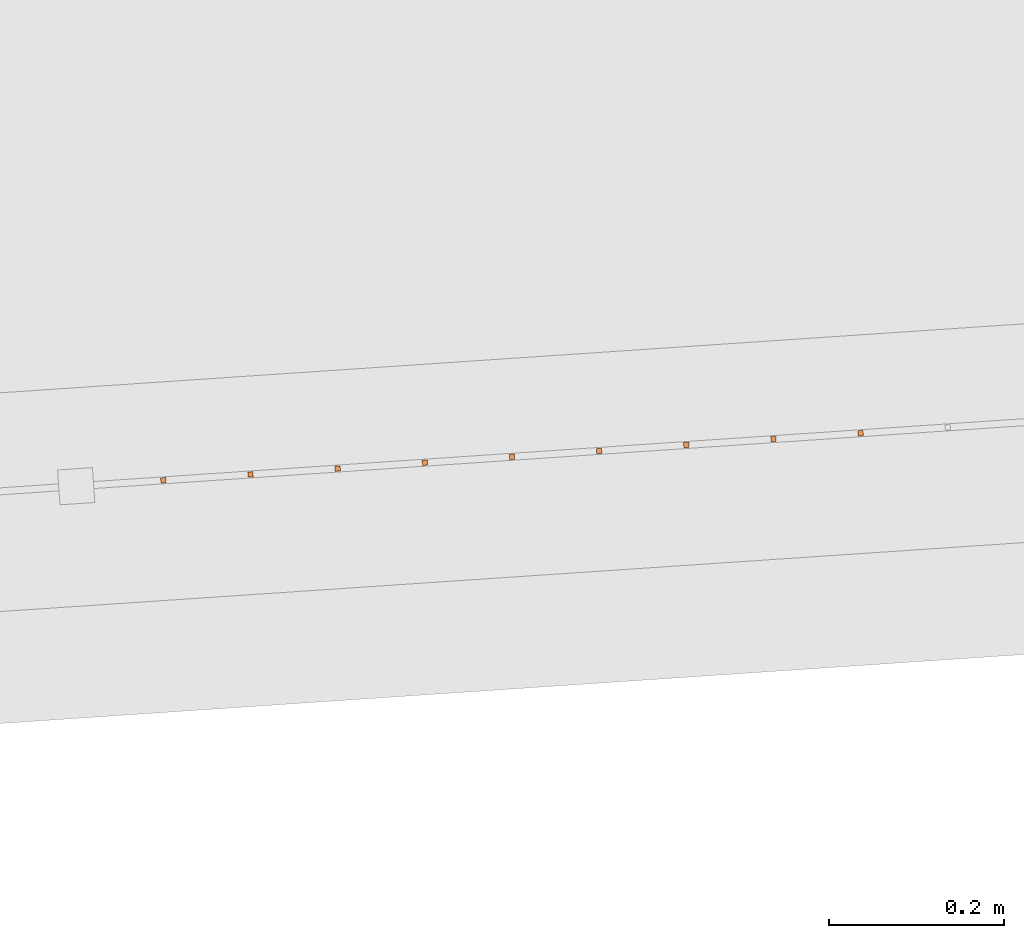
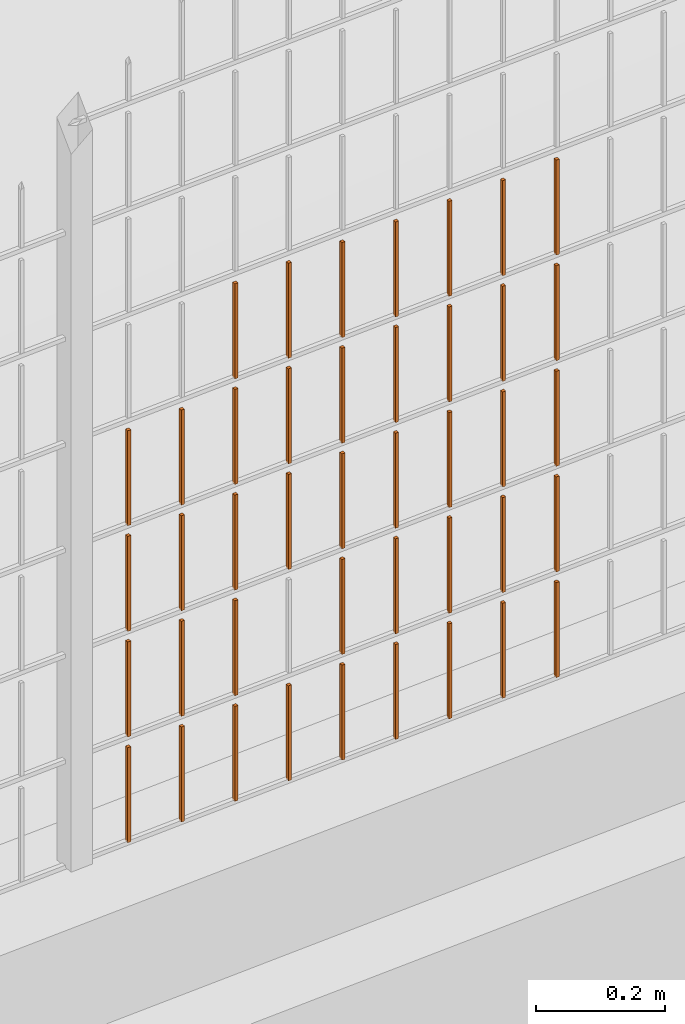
# One storey, part 167 of 1809: 42 proxies, 1 element without a shape of its own.
"""IFC2X3 building model written with IfcOpenShell, lengths in millimetres."""

from ifc_helpers import new_model, entity, si_unit, converted_unit, derived_unit, money_unit, direction, frame, origin_with_axes, place, context, subcontext, project, spatial, faceted_brep, source, transform, mapped, material, type_object, element, aggregate, save


model = new_model("IFC2X3")

# Units and contexts
model_context = context("Model", 3, precision=0.01, world=origin_with_axes(), true_north=direction((0.0, 1.0)))
body_context = subcontext(model_context, "Body", "Model", "MODEL_VIEW")
ifc_project = project(units=[si_unit("LENGTHUNIT", "METRE", prefix="MILLI"), si_unit("AREAUNIT", "SQUARE_METRE"), si_unit("VOLUMEUNIT", "CUBIC_METRE"), converted_unit("PLANEANGLEUNIT", "DEGREE", entity("IfcPlaneAngleMeasure", 0.0174532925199), si_unit("PLANEANGLEUNIT", "RADIAN"), dimensions=[0, 0, 0, 0, 0, 0, 0]), si_unit("SOLIDANGLEUNIT", "STERADIAN"), money_unit("EUR"), converted_unit("TIMEUNIT", "Year", entity("IfcTimeMeasure", 31556926.0), si_unit("TIMEUNIT", "SECOND"), dimensions=[0, 0, 1, 0, 0, 0, 0]), si_unit("MASSUNIT", "GRAM", prefix="KILO"), si_unit("THERMODYNAMICTEMPERATUREUNIT", "DEGREE_CELSIUS"), si_unit("LUMINOUSINTENSITYUNIT", "LUMEN"), si_unit("ENERGYUNIT", "JOULE", prefix="MEGA"), derived_unit("THERMALCONDUCTANCEUNIT", [(si_unit("POWERUNIT", "WATT"), 1), (si_unit("LENGTHUNIT", "METRE"), -1), (si_unit("THERMODYNAMICTEMPERATUREUNIT", "KELVIN"), -1)]), derived_unit("SPECIFICHEATCAPACITYUNIT", [(si_unit("ENERGYUNIT", "JOULE"), 1), (si_unit("MASSUNIT", "GRAM", prefix="KILO"), -1), (si_unit("THERMODYNAMICTEMPERATUREUNIT", "KELVIN"), -1)]), derived_unit("MASSDENSITYUNIT", [(si_unit("MASSUNIT", "GRAM", prefix="KILO"), 1), (si_unit("VOLUMEUNIT", "CUBIC_METRE"), -1)])], contexts=[model_context])

# Site, building, storey
site_placement = place(None, origin_with_axes())
site = spatial("IfcSite", under=ifc_project, at=site_placement, Name="Politse- ja Piirivalveameti ning Päästeameti ühishoone", CompositionType="ELEMENT")
building_placement = place(site_placement, origin_with_axes())
building = spatial("IfcBuilding", under=site, at=building_placement, Name="Politse- ja Piirivalveameti ning Päästeameti ühishoone", CompositionType="ELEMENT")
storey_placement = place(building_placement, origin_with_axes())
storey = spatial("IfcBuildingStorey", under=building, at=storey_placement, Name="Esimene korrus", CompositionType="ELEMENT", Elevation=0.0)

# Proxies
building_element_proxy_type_1 = type_object("IfcBuildingElementProxyType", Name="Railing Type", PredefinedType="NOTDEFINED")
proxy_1_placement = place(storey_placement, frame((89252.001212, -29183.4766571, 203.661247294), z_axis=(0.0, 0.0, 1.0), x_axis=(1.0, 0.0, 0.0)))
proxy_1 = element("IfcBuildingElementProxy", 1, at=proxy_1_placement, inside=storey, type_object=building_element_proxy_type_1, Name="PIIRDEAED")
ifc_material = material(Name="ET-03_Raud")
building_element_proxy_type_2 = type_object("IfcBuildingElementProxyType", Name="IfcBuildingElementProxy", PredefinedType="NOTDEFINED")
shared_shape_1 = source(origin_with_axes(), body_context, "Body", "Brep", [
    faceted_brep([(3.0, 3.0, -0.000752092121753), (-3.0, 3.0, -0.000752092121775), (-3.0, 3.0, 179.99926046), (3.0, 3.0, 179.99926046), (3.0, -3.0, 0.000752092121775), (-3.0, -3.0, 0.000752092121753), (-3.0, -3.0, 180.000764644), (3.0, -3.0, 180.000764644)], [[[0, 1, 2, 3]], [[0, 4, 5, 1]], [[1, 5, 6, 2]], [[3, 2, 6, 7]], [[4, 0, 3, 7]], [[5, 4, 7, 6]]]),
])
proxy_2_placement = place(proxy_1_placement, frame((-76352.706858, -22455.1119651, 8.04934580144), z_axis=(0.0, 0.0, 1.0), x_axis=(1.0, 0.0, 0.0)))
proxy_2 = element("IfcBuildingElementProxy", 2, at=proxy_2_placement, type_object=building_element_proxy_type_2, material=ifc_material, Name="BALUSTER - 001", context=body_context, shape_type="MappedRepresentation", body=[
    mapped(shared_shape_1, transform((0.0, 0.0, 0.0), x_axis=(-0.0673926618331, 0.997726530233, 0.0), y_axis=(-0.997726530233, -0.0673926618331, 0.0), z_axis=(0.0, 0.0, 1.0))),
])
proxy_3_placement = place(proxy_1_placement, frame((-76552.2521641, -22468.5904975, 7.99920632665), z_axis=(0.0, 0.0, 1.0), x_axis=(1.0, 0.0, 0.0)))
proxy_3 = element("IfcBuildingElementProxy", 3, at=proxy_3_placement, type_object=building_element_proxy_type_2, material=ifc_material, Name="BALUSTER - 001", context=body_context, shape_type="MappedRepresentation", body=[
    mapped(shared_shape_1, transform((0.0, 0.0, 0.0), x_axis=(-0.0673926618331, 0.997726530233, 0.0), y_axis=(-0.997726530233, -0.0673926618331, 0.0), z_axis=(0.0, 0.0, 1.0))),
])
proxy_4_placement = place(proxy_1_placement, frame((-76652.0248171, -22475.3297637, 7.97413658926), z_axis=(0.0, 0.0, 1.0), x_axis=(1.0, 0.0, 0.0)))
proxy_4 = element("IfcBuildingElementProxy", 4, at=proxy_4_placement, type_object=building_element_proxy_type_2, material=ifc_material, Name="BALUSTER - 001", context=body_context, shape_type="MappedRepresentation", body=[
    mapped(shared_shape_1, transform((0.0, 0.0, 0.0), x_axis=(-0.0673926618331, 0.997726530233, 0.0), y_axis=(-0.997726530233, -0.0673926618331, 0.0), z_axis=(0.0, 0.0, 1.0))),
])
proxy_5_placement = place(proxy_1_placement, frame((-76951.3427762, -22495.5475622, 7.89892737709), z_axis=(0.0, 0.0, 1.0), x_axis=(1.0, 0.0, 0.0)))
proxy_5 = element("IfcBuildingElementProxy", 5, at=proxy_5_placement, type_object=building_element_proxy_type_2, material=ifc_material, Name="BALUSTER - 001", context=body_context, shape_type="MappedRepresentation", body=[
    mapped(shared_shape_1, transform((0.0, 0.0, 0.0), x_axis=(-0.0673926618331, 0.997726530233, 0.0), y_axis=(-0.997726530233, -0.0673926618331, 0.0), z_axis=(0.0, 0.0, 1.0))),
])
proxy_6_placement = place(proxy_1_placement, frame((-76352.706858, -22455.1119651, 208.049345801), z_axis=(0.0, 0.0, 1.0), x_axis=(1.0, 0.0, 0.0)))
proxy_6 = element("IfcBuildingElementProxy", 6, at=proxy_6_placement, type_object=building_element_proxy_type_2, material=ifc_material, Name="BALUSTER - 001", context=body_context, shape_type="MappedRepresentation", body=[
    mapped(shared_shape_1, transform((0.0, 0.0, 0.0), x_axis=(-0.0673926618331, 0.997726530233, 0.0), y_axis=(-0.997726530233, -0.0673926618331, 0.0), z_axis=(0.0, 0.0, 1.0))),
])
proxy_7_placement = place(proxy_1_placement, frame((-76951.3427762, -22495.5475622, 207.898927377), z_axis=(0.0, 0.0, 1.0), x_axis=(1.0, 0.0, 0.0)))
proxy_7 = element("IfcBuildingElementProxy", 7, at=proxy_7_placement, type_object=building_element_proxy_type_2, material=ifc_material, Name="BALUSTER - 001", context=body_context, shape_type="MappedRepresentation", body=[
    mapped(shared_shape_1, transform((0.0, 0.0, 0.0), x_axis=(-0.0673926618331, 0.997726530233, 0.0), y_axis=(-0.997726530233, -0.0673926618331, 0.0), z_axis=(0.0, 0.0, 1.0))),
])
shared_shape_2 = source(origin_with_axes(), body_context, "Body", "Brep", [
    faceted_brep([(3.0, 3.0, -0.000752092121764), (-3.0, 3.0, -0.000752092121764), (-3.0, 3.0, 179.99926046), (3.0, 3.0, 179.99926046), (3.0, -3.0, 0.000752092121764), (-3.0, -3.0, 0.000752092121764), (-3.0, -3.0, 180.000764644), (3.0, -3.0, 180.000764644)], [[[0, 1, 2, 3]], [[0, 4, 5, 1]], [[1, 5, 6, 2]], [[3, 2, 6, 7]], [[4, 0, 3, 7]], [[5, 4, 7, 6]]]),
])
proxy_8_placement = place(proxy_1_placement, frame((-76851.5701231, -22488.8082961, 7.92399711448), z_axis=(0.0, 0.0, 1.0), x_axis=(1.0, 0.0, 0.0)))
proxy_8 = element("IfcBuildingElementProxy", 8, at=proxy_8_placement, type_object=building_element_proxy_type_2, material=ifc_material, Name="BALUSTER - 001", context=body_context, shape_type="MappedRepresentation", body=[
    mapped(shared_shape_2, transform((0.0, 0.0, 0.0), x_axis=(-0.0673926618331, 0.997726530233, 0.0), y_axis=(-0.997726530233, -0.0673926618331, 0.0), z_axis=(0.0, 0.0, 1.0))),
])
shared_shape_3 = source(origin_with_axes(), body_context, "Body", "Brep", [
    faceted_brep([(3.0, 3.0, -0.000752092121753), (-3.0, 3.0, -0.000752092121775), (-3.0, 3.0, 179.99926046), (3.0, 3.0, 179.99926046), (3.0, -3.0, 0.000752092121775), (-3.0, -3.0, 0.000752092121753), (-3.0, -3.0, 180.000764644), (3.0, -3.0, 180.000764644)], [[[0, 1, 2, 3]], [[0, 4, 5, 1]], [[1, 5, 6, 2]], [[3, 2, 6, 7]], [[4, 0, 3, 7]], [[5, 4, 7, 6]]]),
])
proxy_9_placement = place(proxy_1_placement, frame((-76751.7974701, -22482.0690299, 7.94906685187), z_axis=(0.0, 0.0, 1.0), x_axis=(1.0, 0.0, 0.0)))
proxy_9 = element("IfcBuildingElementProxy", 9, at=proxy_9_placement, type_object=building_element_proxy_type_2, material=ifc_material, Name="BALUSTER - 001", context=body_context, shape_type="MappedRepresentation", body=[
    mapped(shared_shape_3, transform((0.0, 0.0, 0.0), x_axis=(-0.0673926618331, 0.997726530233, 0.0), y_axis=(-0.997726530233, -0.0673926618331, 0.0), z_axis=(0.0, 0.0, 1.0))),
])
shared_shape_4 = source(origin_with_axes(), body_context, "Body", "Brep", [
    faceted_brep([(3.0, 3.0, -0.000752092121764), (-3.0, 3.0, -0.000752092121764), (-3.0, 3.0, 179.99926046), (3.0, 3.0, 179.99926046), (3.0, -3.0, 0.000752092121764), (-3.0, -3.0, 0.000752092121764), (-3.0, -3.0, 180.000764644), (3.0, -3.0, 180.000764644)], [[[0, 1, 2, 3]], [[0, 4, 5, 1]], [[1, 5, 6, 2]], [[3, 2, 6, 7]], [[4, 0, 3, 7]], [[5, 4, 7, 6]]]),
])
proxy_10_placement = place(proxy_1_placement, frame((-76252.934205, -22448.372699, 8.07441553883), z_axis=(0.0, 0.0, 1.0), x_axis=(1.0, 0.0, 0.0)))
proxy_10 = element("IfcBuildingElementProxy", 10, at=proxy_10_placement, type_object=building_element_proxy_type_2, material=ifc_material, Name="BALUSTER - 001", context=body_context, shape_type="MappedRepresentation", body=[
    mapped(shared_shape_4, transform((0.0, 0.0, 0.0), x_axis=(-0.0673926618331, 0.997726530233, 0.0), y_axis=(-0.997726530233, -0.0673926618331, 0.0), z_axis=(0.0, 0.0, 1.0))),
])
shared_shape_5 = source(origin_with_axes(), body_context, "Body", "Brep", [
    faceted_brep([(3.0, 3.0, -0.000752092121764), (-3.0, 3.0, -0.000752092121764), (-3.0, 3.0, 179.99926046), (3.0, 3.0, 179.99926046), (3.0, -3.0, 0.000752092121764), (-3.0, -3.0, 0.000752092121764), (-3.0, -3.0, 180.000764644), (3.0, -3.0, 180.000764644)], [[[0, 1, 2, 3]], [[0, 4, 5, 1]], [[1, 5, 6, 2]], [[3, 2, 6, 7]], [[4, 0, 3, 7]], [[5, 4, 7, 6]]]),
])
proxy_11_placement = place(proxy_1_placement, frame((-76252.934205, -22448.372699, 408.074415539), z_axis=(0.0, 0.0, 1.0), x_axis=(1.0, 0.0, 0.0)))
proxy_11 = element("IfcBuildingElementProxy", 11, at=proxy_11_placement, type_object=building_element_proxy_type_2, material=ifc_material, Name="BALUSTER - 001", context=body_context, shape_type="MappedRepresentation", body=[
    mapped(shared_shape_5, transform((0.0, 0.0, 0.0), x_axis=(-0.0673926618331, 0.997726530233, 0.0), y_axis=(-0.997726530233, -0.0673926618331, 0.0), z_axis=(0.0, 0.0, 1.0))),
])
proxy_12_placement = place(proxy_1_placement, frame((-76851.5701231, -22488.8082961, 407.923997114), z_axis=(0.0, 0.0, 1.0), x_axis=(1.0, 0.0, 0.0)))
proxy_12 = element("IfcBuildingElementProxy", 12, at=proxy_12_placement, type_object=building_element_proxy_type_2, material=ifc_material, Name="BALUSTER - 001", context=body_context, shape_type="MappedRepresentation", body=[
    mapped(shared_shape_5, transform((0.0, 0.0, 0.0), x_axis=(-0.0673926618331, 0.997726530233, 0.0), y_axis=(-0.997726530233, -0.0673926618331, 0.0), z_axis=(0.0, 0.0, 1.0))),
])
proxy_13_placement = place(proxy_1_placement, frame((-76252.934205, -22448.372699, 608.074415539), z_axis=(0.0, 0.0, 1.0), x_axis=(1.0, 0.0, 0.0)))
proxy_13 = element("IfcBuildingElementProxy", 13, at=proxy_13_placement, type_object=building_element_proxy_type_2, material=ifc_material, Name="BALUSTER - 001", context=body_context, shape_type="MappedRepresentation", body=[
    mapped(shared_shape_5, transform((0.0, 0.0, 0.0), x_axis=(-0.0673926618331, 0.997726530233, 0.0), y_axis=(-0.997726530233, -0.0673926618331, 0.0), z_axis=(0.0, 0.0, 1.0))),
])
shared_shape_6 = source(origin_with_axes(), body_context, "Body", "Brep", [
    faceted_brep([(3.0, 3.0, -0.000752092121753), (-3.0, 3.0, -0.000752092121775), (-3.0, 3.0, 179.99926046), (3.0, 3.0, 179.99926046), (3.0, -3.0, 0.000752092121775), (-3.0, -3.0, 0.000752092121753), (-3.0, -3.0, 180.000764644), (3.0, -3.0, 180.000764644)], [[[0, 1, 2, 3]], [[0, 4, 5, 1]], [[1, 5, 6, 2]], [[3, 2, 6, 7]], [[4, 0, 3, 7]], [[5, 4, 7, 6]]]),
])
proxy_14_placement = place(proxy_1_placement, frame((-76552.2521641, -22468.5904975, 207.999206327), z_axis=(0.0, 0.0, 1.0), x_axis=(1.0, 0.0, 0.0)))
proxy_14 = element("IfcBuildingElementProxy", 14, at=proxy_14_placement, type_object=building_element_proxy_type_2, material=ifc_material, Name="BALUSTER - 001", context=body_context, shape_type="MappedRepresentation", body=[
    mapped(shared_shape_6, transform((0.0, 0.0, 0.0), x_axis=(-0.0673926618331, 0.997726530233, 0.0), y_axis=(-0.997726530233, -0.0673926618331, 0.0), z_axis=(0.0, 0.0, 1.0))),
])
proxy_15_placement = place(proxy_1_placement, frame((-76352.706858, -22455.1119651, 408.049345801), z_axis=(0.0, 0.0, 1.0), x_axis=(1.0, 0.0, 0.0)))
proxy_15 = element("IfcBuildingElementProxy", 15, at=proxy_15_placement, type_object=building_element_proxy_type_2, material=ifc_material, Name="BALUSTER - 001", context=body_context, shape_type="MappedRepresentation", body=[
    mapped(shared_shape_6, transform((0.0, 0.0, 0.0), x_axis=(-0.0673926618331, 0.997726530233, 0.0), y_axis=(-0.997726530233, -0.0673926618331, 0.0), z_axis=(0.0, 0.0, 1.0))),
])
proxy_16_placement = place(proxy_1_placement, frame((-77051.1154292, -22502.2868284, 407.87385764), z_axis=(0.0, 0.0, 1.0), x_axis=(1.0, 0.0, 0.0)))
proxy_16 = element("IfcBuildingElementProxy", 16, at=proxy_16_placement, type_object=building_element_proxy_type_2, material=ifc_material, Name="BALUSTER - 001", context=body_context, shape_type="MappedRepresentation", body=[
    mapped(shared_shape_6, transform((0.0, 0.0, 0.0), x_axis=(-0.0673926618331, 0.997726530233, 0.0), y_axis=(-0.997726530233, -0.0673926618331, 0.0), z_axis=(0.0, 0.0, 1.0))),
])
shared_shape_7 = source(origin_with_axes(), body_context, "Body", "Brep", [
    faceted_brep([(3.0, 3.0, -0.000752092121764), (-3.0, 3.0, -0.000752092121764), (-3.0, 3.0, 179.99926046), (3.0, 3.0, 179.99926046), (3.0, -3.0, 0.000752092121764), (-3.0, -3.0, 0.000752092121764), (-3.0, -3.0, 180.000764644), (3.0, -3.0, 180.000764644)], [[[0, 1, 2, 3]], [[0, 4, 5, 1]], [[1, 5, 6, 2]], [[3, 2, 6, 7]], [[4, 0, 3, 7]], [[5, 4, 7, 6]]]),
])
proxy_17_placement = place(proxy_1_placement, frame((-76851.5701231, -22488.8082961, 607.923997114), z_axis=(0.0, 0.0, 1.0), x_axis=(1.0, 0.0, 0.0)))
proxy_17 = element("IfcBuildingElementProxy", 17, at=proxy_17_placement, type_object=building_element_proxy_type_2, material=ifc_material, Name="BALUSTER - 001", context=body_context, shape_type="MappedRepresentation", body=[
    mapped(shared_shape_7, transform((0.0, 0.0, 0.0), x_axis=(-0.0673926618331, 0.997726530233, 0.0), y_axis=(-0.997726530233, -0.0673926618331, 0.0), z_axis=(0.0, 0.0, 1.0))),
])
shared_shape_8 = source(origin_with_axes(), body_context, "Body", "Brep", [
    faceted_brep([(3.0, 3.0, -0.000752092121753), (-3.0, 3.0, -0.000752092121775), (-3.0, 3.0, 179.99926046), (3.0, 3.0, 179.99926046), (3.0, -3.0, 0.000752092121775), (-3.0, -3.0, 0.000752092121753), (-3.0, -3.0, 180.000764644), (3.0, -3.0, 180.000764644)], [[[0, 1, 2, 3]], [[0, 4, 5, 1]], [[1, 5, 6, 2]], [[3, 2, 6, 7]], [[4, 0, 3, 7]], [[5, 4, 7, 6]]]),
])
proxy_18_placement = place(proxy_1_placement, frame((-76751.7974701, -22482.0690299, 607.949066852), z_axis=(0.0, 0.0, 1.0), x_axis=(1.0, 0.0, 0.0)))
proxy_18 = element("IfcBuildingElementProxy", 18, at=proxy_18_placement, type_object=building_element_proxy_type_2, material=ifc_material, Name="BALUSTER - 001", context=body_context, shape_type="MappedRepresentation", body=[
    mapped(shared_shape_8, transform((0.0, 0.0, 0.0), x_axis=(-0.0673926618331, 0.997726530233, 0.0), y_axis=(-0.997726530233, -0.0673926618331, 0.0), z_axis=(0.0, 0.0, 1.0))),
])
shared_shape_9 = source(origin_with_axes(), body_context, "Body", "Brep", [
    faceted_brep([(3.0, 3.0, -0.000752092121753), (-3.0, 3.0, -0.000752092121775), (-3.0, 3.0, 179.99926046), (3.0, 3.0, 179.99926046), (3.0, -3.0, 0.000752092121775), (-3.0, -3.0, 0.000752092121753), (-3.0, -3.0, 180.000764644), (3.0, -3.0, 180.000764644)], [[[0, 1, 2, 3]], [[0, 4, 5, 1]], [[1, 5, 6, 2]], [[3, 2, 6, 7]], [[4, 0, 3, 7]], [[5, 4, 7, 6]]]),
])
proxy_19_placement = place(proxy_1_placement, frame((-76452.479511, -22461.8512313, 608.024276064), z_axis=(0.0, 0.0, 1.0), x_axis=(1.0, 0.0, 0.0)))
proxy_19 = element("IfcBuildingElementProxy", 19, at=proxy_19_placement, type_object=building_element_proxy_type_2, material=ifc_material, Name="BALUSTER - 001", context=body_context, shape_type="MappedRepresentation", body=[
    mapped(shared_shape_9, transform((0.0, 0.0, 0.0), x_axis=(-0.0673926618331, 0.997726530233, 0.0), y_axis=(-0.997726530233, -0.0673926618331, 0.0), z_axis=(0.0, 0.0, 1.0))),
])
proxy_20_placement = place(proxy_1_placement, frame((-76951.3427762, -22495.5475622, 607.898927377), z_axis=(0.0, 0.0, 1.0), x_axis=(1.0, 0.0, 0.0)))
proxy_20 = element("IfcBuildingElementProxy", 20, at=proxy_20_placement, type_object=building_element_proxy_type_2, material=ifc_material, Name="BALUSTER - 001", context=body_context, shape_type="MappedRepresentation", body=[
    mapped(shared_shape_9, transform((0.0, 0.0, 0.0), x_axis=(-0.0673926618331, 0.997726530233, 0.0), y_axis=(-0.997726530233, -0.0673926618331, 0.0), z_axis=(0.0, 0.0, 1.0))),
])
proxy_21_placement = place(proxy_1_placement, frame((-76552.2521641, -22468.5904975, 807.999206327), z_axis=(0.0, 0.0, 1.0), x_axis=(1.0, 0.0, 0.0)))
proxy_21 = element("IfcBuildingElementProxy", 21, at=proxy_21_placement, type_object=building_element_proxy_type_2, material=ifc_material, Name="BALUSTER - 001", context=body_context, shape_type="MappedRepresentation", body=[
    mapped(shared_shape_9, transform((0.0, 0.0, 0.0), x_axis=(-0.0673926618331, 0.997726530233, 0.0), y_axis=(-0.997726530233, -0.0673926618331, 0.0), z_axis=(0.0, 0.0, 1.0))),
])
proxy_22_placement = place(proxy_1_placement, frame((-76652.0248171, -22475.3297637, 807.974136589), z_axis=(0.0, 0.0, 1.0), x_axis=(1.0, 0.0, 0.0)))
proxy_22 = element("IfcBuildingElementProxy", 22, at=proxy_22_placement, type_object=building_element_proxy_type_2, material=ifc_material, Name="BALUSTER - 001", context=body_context, shape_type="MappedRepresentation", body=[
    mapped(shared_shape_9, transform((0.0, 0.0, 0.0), x_axis=(-0.0673926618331, 0.997726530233, 0.0), y_axis=(-0.997726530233, -0.0673926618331, 0.0), z_axis=(0.0, 0.0, 1.0))),
])
shared_shape_10 = source(origin_with_axes(), body_context, "Body", "Brep", [
    faceted_brep([(3.0, 3.0, -0.000752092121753), (-3.0, 3.0, -0.000752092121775), (-3.0, 3.0, 179.99926046), (3.0, 3.0, 179.99926046), (3.0, -3.0, 0.000752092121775), (-3.0, -3.0, 0.000752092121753), (-3.0, -3.0, 180.000764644), (3.0, -3.0, 180.000764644)], [[[0, 1, 2, 3]], [[0, 4, 5, 1]], [[1, 5, 6, 2]], [[3, 2, 6, 7]], [[4, 0, 3, 7]], [[5, 4, 7, 6]]]),
])
proxy_23_placement = place(proxy_1_placement, frame((-76352.706858, -22455.1119651, 808.049345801), z_axis=(0.0, 0.0, 1.0), x_axis=(1.0, 0.0, 0.0)))
proxy_23 = element("IfcBuildingElementProxy", 23, at=proxy_23_placement, type_object=building_element_proxy_type_2, material=ifc_material, Name="BALUSTER - 001", context=body_context, shape_type="MappedRepresentation", body=[
    mapped(shared_shape_10, transform((0.0, 0.0, 0.0), x_axis=(-0.0673926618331, 0.997726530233, 0.0), y_axis=(-0.997726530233, -0.0673926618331, 0.0), z_axis=(0.0, 0.0, 1.0))),
])
shared_shape_11 = source(origin_with_axes(), body_context, "Body", "Brep", [
    faceted_brep([(3.0, 3.0, -0.000752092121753), (-3.0, 3.0, -0.000752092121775), (-3.0, 3.0, 179.99926046), (3.0, 3.0, 179.99926046), (3.0, -3.0, 0.000752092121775), (-3.0, -3.0, 0.000752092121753), (-3.0, -3.0, 180.000764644), (3.0, -3.0, 180.000764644)], [[[0, 1, 2, 3]], [[0, 4, 5, 1]], [[1, 5, 6, 2]], [[3, 2, 6, 7]], [[4, 0, 3, 7]], [[5, 4, 7, 6]]]),
])
proxy_24_placement = place(proxy_1_placement, frame((-76751.7974701, -22482.0690299, 807.949066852), z_axis=(0.0, 0.0, 1.0), x_axis=(1.0, 0.0, 0.0)))
proxy_24 = element("IfcBuildingElementProxy", 24, at=proxy_24_placement, type_object=building_element_proxy_type_2, material=ifc_material, Name="BALUSTER - 001", context=body_context, shape_type="MappedRepresentation", body=[
    mapped(shared_shape_11, transform((0.0, 0.0, 0.0), x_axis=(-0.0673926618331, 0.997726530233, 0.0), y_axis=(-0.997726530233, -0.0673926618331, 0.0), z_axis=(0.0, 0.0, 1.0))),
])
shared_shape_12 = source(origin_with_axes(), body_context, "Body", "Brep", [
    faceted_brep([(3.0, 3.0, -0.000752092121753), (-3.0, 3.0, -0.000752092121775), (-3.0, 3.0, 179.99926046), (3.0, 3.0, 179.99926046), (3.0, -3.0, 0.000752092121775), (-3.0, -3.0, 0.000752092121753), (-3.0, -3.0, 180.000764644), (3.0, -3.0, 180.000764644)], [[[0, 1, 2, 3]], [[0, 4, 5, 1]], [[1, 5, 6, 2]], [[3, 2, 6, 7]], [[4, 0, 3, 7]], [[5, 4, 7, 6]]]),
])
proxy_25_placement = place(proxy_1_placement, frame((-76352.706858, -22455.1119651, 608.049345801), z_axis=(0.0, 0.0, 1.0), x_axis=(1.0, 0.0, 0.0)))
proxy_25 = element("IfcBuildingElementProxy", 25, at=proxy_25_placement, type_object=building_element_proxy_type_2, material=ifc_material, Name="BALUSTER - 001", context=body_context, shape_type="MappedRepresentation", body=[
    mapped(shared_shape_12, transform((0.0, 0.0, 0.0), x_axis=(-0.0673926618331, 0.997726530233, 0.0), y_axis=(-0.997726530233, -0.0673926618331, 0.0), z_axis=(0.0, 0.0, 1.0))),
])
proxy_26_placement = place(proxy_1_placement, frame((-77051.1154292, -22502.2868284, 607.87385764), z_axis=(0.0, 0.0, 1.0), x_axis=(1.0, 0.0, 0.0)))
proxy_26 = element("IfcBuildingElementProxy", 26, at=proxy_26_placement, type_object=building_element_proxy_type_2, material=ifc_material, Name="BALUSTER - 001", context=body_context, shape_type="MappedRepresentation", body=[
    mapped(shared_shape_12, transform((0.0, 0.0, 0.0), x_axis=(-0.0673926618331, 0.997726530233, 0.0), y_axis=(-0.997726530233, -0.0673926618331, 0.0), z_axis=(0.0, 0.0, 1.0))),
])
proxy_27_placement = place(proxy_1_placement, frame((-76452.479511, -22461.8512313, 808.024276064), z_axis=(0.0, 0.0, 1.0), x_axis=(1.0, 0.0, 0.0)))
proxy_27 = element("IfcBuildingElementProxy", 27, at=proxy_27_placement, type_object=building_element_proxy_type_2, material=ifc_material, Name="BALUSTER - 001", context=body_context, shape_type="MappedRepresentation", body=[
    mapped(shared_shape_12, transform((0.0, 0.0, 0.0), x_axis=(-0.0673926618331, 0.997726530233, 0.0), y_axis=(-0.997726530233, -0.0673926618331, 0.0), z_axis=(0.0, 0.0, 1.0))),
])
shared_shape_13 = source(origin_with_axes(), body_context, "Body", "Brep", [
    faceted_brep([(3.0, 3.0, -0.000752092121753), (-3.0, 3.0, -0.000752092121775), (-3.0, 3.0, 179.99926046), (3.0, 3.0, 179.99926046), (3.0, -3.0, 0.000752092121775), (-3.0, -3.0, 0.000752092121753), (-3.0, -3.0, 180.000764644), (3.0, -3.0, 180.000764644)], [[[0, 1, 2, 3]], [[0, 4, 5, 1]], [[1, 5, 6, 2]], [[3, 2, 6, 7]], [[4, 0, 3, 7]], [[5, 4, 7, 6]]]),
])
proxy_28_placement = place(proxy_1_placement, frame((-76452.479511, -22461.8512313, 8.02427606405), z_axis=(0.0, 0.0, 1.0), x_axis=(1.0, 0.0, 0.0)))
proxy_28 = element("IfcBuildingElementProxy", 28, at=proxy_28_placement, type_object=building_element_proxy_type_2, material=ifc_material, Name="BALUSTER - 001", context=body_context, shape_type="MappedRepresentation", body=[
    mapped(shared_shape_13, transform((0.0, 0.0, 0.0), x_axis=(-0.0673926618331, 0.997726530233, 0.0), y_axis=(-0.997726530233, -0.0673926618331, 0.0), z_axis=(0.0, 0.0, 1.0))),
])
shared_shape_14 = source(origin_with_axes(), body_context, "Body", "Brep", [
    faceted_brep([(3.0, 3.0, -0.000752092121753), (-3.0, 3.0, -0.000752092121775), (-3.0, 3.0, 179.99926046), (3.0, 3.0, 179.99926046), (3.0, -3.0, 0.000752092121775), (-3.0, -3.0, 0.000752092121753), (-3.0, -3.0, 180.000764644), (3.0, -3.0, 180.000764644)], [[[0, 1, 2, 3]], [[0, 4, 5, 1]], [[1, 5, 6, 2]], [[3, 2, 6, 7]], [[4, 0, 3, 7]], [[5, 4, 7, 6]]]),
])
proxy_29_placement = place(proxy_1_placement, frame((-76452.479511, -22461.8512313, 208.024276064), z_axis=(0.0, 0.0, 1.0), x_axis=(1.0, 0.0, 0.0)))
proxy_29 = element("IfcBuildingElementProxy", 29, at=proxy_29_placement, type_object=building_element_proxy_type_2, material=ifc_material, Name="BALUSTER - 001", context=body_context, shape_type="MappedRepresentation", body=[
    mapped(shared_shape_14, transform((0.0, 0.0, 0.0), x_axis=(-0.0673926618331, 0.997726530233, 0.0), y_axis=(-0.997726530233, -0.0673926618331, 0.0), z_axis=(0.0, 0.0, 1.0))),
])
proxy_30_placement = place(proxy_1_placement, frame((-76652.0248171, -22475.3297637, 207.974136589), z_axis=(0.0, 0.0, 1.0), x_axis=(1.0, 0.0, 0.0)))
proxy_30 = element("IfcBuildingElementProxy", 30, at=proxy_30_placement, type_object=building_element_proxy_type_2, material=ifc_material, Name="BALUSTER - 001", context=body_context, shape_type="MappedRepresentation", body=[
    mapped(shared_shape_14, transform((0.0, 0.0, 0.0), x_axis=(-0.0673926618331, 0.997726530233, 0.0), y_axis=(-0.997726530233, -0.0673926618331, 0.0), z_axis=(0.0, 0.0, 1.0))),
])
proxy_31_placement = place(proxy_1_placement, frame((-77051.1154292, -22502.2868284, 207.87385764), z_axis=(0.0, 0.0, 1.0), x_axis=(1.0, 0.0, 0.0)))
proxy_31 = element("IfcBuildingElementProxy", 31, at=proxy_31_placement, type_object=building_element_proxy_type_2, material=ifc_material, Name="BALUSTER - 001", context=body_context, shape_type="MappedRepresentation", body=[
    mapped(shared_shape_14, transform((0.0, 0.0, 0.0), x_axis=(-0.0673926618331, 0.997726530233, 0.0), y_axis=(-0.997726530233, -0.0673926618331, 0.0), z_axis=(0.0, 0.0, 1.0))),
])
proxy_32_placement = place(proxy_1_placement, frame((-76452.479511, -22461.8512313, 408.024276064), z_axis=(0.0, 0.0, 1.0), x_axis=(1.0, 0.0, 0.0)))
proxy_32 = element("IfcBuildingElementProxy", 32, at=proxy_32_placement, type_object=building_element_proxy_type_2, material=ifc_material, Name="BALUSTER - 001", context=body_context, shape_type="MappedRepresentation", body=[
    mapped(shared_shape_14, transform((0.0, 0.0, 0.0), x_axis=(-0.0673926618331, 0.997726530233, 0.0), y_axis=(-0.997726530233, -0.0673926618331, 0.0), z_axis=(0.0, 0.0, 1.0))),
])
proxy_33_placement = place(proxy_1_placement, frame((-76552.2521641, -22468.5904975, 407.999206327), z_axis=(0.0, 0.0, 1.0), x_axis=(1.0, 0.0, 0.0)))
proxy_33 = element("IfcBuildingElementProxy", 33, at=proxy_33_placement, type_object=building_element_proxy_type_2, material=ifc_material, Name="BALUSTER - 001", context=body_context, shape_type="MappedRepresentation", body=[
    mapped(shared_shape_14, transform((0.0, 0.0, 0.0), x_axis=(-0.0673926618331, 0.997726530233, 0.0), y_axis=(-0.997726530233, -0.0673926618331, 0.0), z_axis=(0.0, 0.0, 1.0))),
])
proxy_34_placement = place(proxy_1_placement, frame((-76652.0248171, -22475.3297637, 407.974136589), z_axis=(0.0, 0.0, 1.0), x_axis=(1.0, 0.0, 0.0)))
proxy_34 = element("IfcBuildingElementProxy", 34, at=proxy_34_placement, type_object=building_element_proxy_type_2, material=ifc_material, Name="BALUSTER - 001", context=body_context, shape_type="MappedRepresentation", body=[
    mapped(shared_shape_14, transform((0.0, 0.0, 0.0), x_axis=(-0.0673926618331, 0.997726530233, 0.0), y_axis=(-0.997726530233, -0.0673926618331, 0.0), z_axis=(0.0, 0.0, 1.0))),
])
proxy_35_placement = place(proxy_1_placement, frame((-76951.3427762, -22495.5475622, 407.898927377), z_axis=(0.0, 0.0, 1.0), x_axis=(1.0, 0.0, 0.0)))
proxy_35 = element("IfcBuildingElementProxy", 35, at=proxy_35_placement, type_object=building_element_proxy_type_2, material=ifc_material, Name="BALUSTER - 001", context=body_context, shape_type="MappedRepresentation", body=[
    mapped(shared_shape_14, transform((0.0, 0.0, 0.0), x_axis=(-0.0673926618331, 0.997726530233, 0.0), y_axis=(-0.997726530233, -0.0673926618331, 0.0), z_axis=(0.0, 0.0, 1.0))),
])
proxy_36_placement = place(proxy_1_placement, frame((-76552.2521641, -22468.5904975, 607.999206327), z_axis=(0.0, 0.0, 1.0), x_axis=(1.0, 0.0, 0.0)))
proxy_36 = element("IfcBuildingElementProxy", 36, at=proxy_36_placement, type_object=building_element_proxy_type_2, material=ifc_material, Name="BALUSTER - 001", context=body_context, shape_type="MappedRepresentation", body=[
    mapped(shared_shape_14, transform((0.0, 0.0, 0.0), x_axis=(-0.0673926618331, 0.997726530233, 0.0), y_axis=(-0.997726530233, -0.0673926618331, 0.0), z_axis=(0.0, 0.0, 1.0))),
])
proxy_37_placement = place(proxy_1_placement, frame((-76652.0248171, -22475.3297637, 607.974136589), z_axis=(0.0, 0.0, 1.0), x_axis=(1.0, 0.0, 0.0)))
proxy_37 = element("IfcBuildingElementProxy", 37, at=proxy_37_placement, type_object=building_element_proxy_type_2, material=ifc_material, Name="BALUSTER - 001", context=body_context, shape_type="MappedRepresentation", body=[
    mapped(shared_shape_14, transform((0.0, 0.0, 0.0), x_axis=(-0.0673926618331, 0.997726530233, 0.0), y_axis=(-0.997726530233, -0.0673926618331, 0.0), z_axis=(0.0, 0.0, 1.0))),
])
shared_shape_15 = source(origin_with_axes(), body_context, "Body", "Brep", [
    faceted_brep([(3.0, 3.0, -0.000752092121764), (-3.0, 3.0, -0.000752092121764), (-3.0, 3.0, 179.99926046), (3.0, 3.0, 179.99926046), (3.0, -3.0, 0.000752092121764), (-3.0, -3.0, 0.000752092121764), (-3.0, -3.0, 180.000764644), (3.0, -3.0, 180.000764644)], [[[0, 1, 2, 3]], [[0, 4, 5, 1]], [[1, 5, 6, 2]], [[3, 2, 6, 7]], [[4, 0, 3, 7]], [[5, 4, 7, 6]]]),
])
proxy_38_placement = place(proxy_1_placement, frame((-76252.934205, -22448.372699, 808.074415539), z_axis=(0.0, 0.0, 1.0), x_axis=(1.0, 0.0, 0.0)))
proxy_38 = element("IfcBuildingElementProxy", 38, at=proxy_38_placement, type_object=building_element_proxy_type_2, material=ifc_material, Name="BALUSTER - 001", context=body_context, shape_type="MappedRepresentation", body=[
    mapped(shared_shape_15, transform((0.0, 0.0, 0.0), x_axis=(-0.0673926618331, 0.997726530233, 0.0), y_axis=(-0.997726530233, -0.0673926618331, 0.0), z_axis=(0.0, 0.0, 1.0))),
])
proxy_39_placement = place(proxy_1_placement, frame((-76851.5701231, -22488.8082961, 807.923997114), z_axis=(0.0, 0.0, 1.0), x_axis=(1.0, 0.0, 0.0)))
proxy_39 = element("IfcBuildingElementProxy", 39, at=proxy_39_placement, type_object=building_element_proxy_type_2, material=ifc_material, Name="BALUSTER - 001", context=body_context, shape_type="MappedRepresentation", body=[
    mapped(shared_shape_15, transform((0.0, 0.0, 0.0), x_axis=(-0.0673926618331, 0.997726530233, 0.0), y_axis=(-0.997726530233, -0.0673926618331, 0.0), z_axis=(0.0, 0.0, 1.0))),
])
shared_shape_16 = source(origin_with_axes(), body_context, "Body", "Brep", [
    faceted_brep([(3.0, 3.0, -0.000752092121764), (-3.0, 3.0, -0.000752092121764), (-3.0, 3.0, 179.99926046), (3.0, 3.0, 179.99926046), (3.0, -3.0, 0.000752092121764), (-3.0, -3.0, 0.000752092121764), (-3.0, -3.0, 180.000764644), (3.0, -3.0, 180.000764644)], [[[0, 1, 2, 3]], [[0, 4, 5, 1]], [[1, 5, 6, 2]], [[3, 2, 6, 7]], [[4, 0, 3, 7]], [[5, 4, 7, 6]]]),
])
proxy_40_placement = place(proxy_1_placement, frame((-76252.934205, -22448.372699, 208.074415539), z_axis=(0.0, 0.0, 1.0), x_axis=(1.0, 0.0, 0.0)))
proxy_40 = element("IfcBuildingElementProxy", 40, at=proxy_40_placement, type_object=building_element_proxy_type_2, material=ifc_material, Name="BALUSTER - 001", context=body_context, shape_type="MappedRepresentation", body=[
    mapped(shared_shape_16, transform((0.0, 0.0, 0.0), x_axis=(-0.0673926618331, 0.997726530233, 0.0), y_axis=(-0.997726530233, -0.0673926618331, 0.0), z_axis=(0.0, 0.0, 1.0))),
])
proxy_41_placement = place(proxy_1_placement, frame((-76851.5701231, -22488.8082961, 207.923997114), z_axis=(0.0, 0.0, 1.0), x_axis=(1.0, 0.0, 0.0)))
proxy_41 = element("IfcBuildingElementProxy", 41, at=proxy_41_placement, type_object=building_element_proxy_type_2, material=ifc_material, Name="BALUSTER - 001", context=body_context, shape_type="MappedRepresentation", body=[
    mapped(shared_shape_16, transform((0.0, 0.0, 0.0), x_axis=(-0.0673926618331, 0.997726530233, 0.0), y_axis=(-0.997726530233, -0.0673926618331, 0.0), z_axis=(0.0, 0.0, 1.0))),
])
shared_shape_17 = source(origin_with_axes(), body_context, "Body", "Brep", [
    faceted_brep([(3.0, 3.0, -0.000752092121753), (-3.0, 3.0, -0.000752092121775), (-3.0, 3.0, 179.99926046), (3.0, 3.0, 179.99926046), (3.0, -3.0, 0.000752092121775), (-3.0, -3.0, 0.000752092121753), (-3.0, -3.0, 180.000764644), (3.0, -3.0, 180.000764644)], [[[0, 1, 2, 3]], [[0, 4, 5, 1]], [[1, 5, 6, 2]], [[3, 2, 6, 7]], [[4, 0, 3, 7]], [[5, 4, 7, 6]]]),
])
proxy_42_placement = place(proxy_1_placement, frame((-77051.1154292, -22502.2868284, 7.87385763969), z_axis=(0.0, 0.0, 1.0), x_axis=(1.0, 0.0, 0.0)))
proxy_42 = element("IfcBuildingElementProxy", 42, at=proxy_42_placement, type_object=building_element_proxy_type_2, material=ifc_material, Name="BALUSTER - 001", context=body_context, shape_type="MappedRepresentation", body=[
    mapped(shared_shape_17, transform((0.0, 0.0, 0.0), x_axis=(-0.0673926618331, 0.997726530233, 0.0), y_axis=(-0.997726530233, -0.0673926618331, 0.0), z_axis=(0.0, 0.0, 1.0))),
])
shared_shape_18 = source(origin_with_axes(), body_context, "Body", "Brep", [
    faceted_brep([(3.0, 3.0, -0.000752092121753), (-3.0, 3.0, -0.000752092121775), (-3.0, 3.0, 179.99926046), (3.0, 3.0, 179.99926046), (3.0, -3.0, 0.000752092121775), (-3.0, -3.0, 0.000752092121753), (-3.0, -3.0, 180.000764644), (3.0, -3.0, 180.000764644)], [[[0, 1, 2, 3]], [[0, 4, 5, 1]], [[1, 5, 6, 2]], [[3, 2, 6, 7]], [[4, 0, 3, 7]], [[5, 4, 7, 6]]]),
])
proxy_43_placement = place(proxy_1_placement, frame((-76751.7974701, -22482.0690299, 407.949066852), z_axis=(0.0, 0.0, 1.0), x_axis=(1.0, 0.0, 0.0)))
proxy_43 = element("IfcBuildingElementProxy", 43, at=proxy_43_placement, type_object=building_element_proxy_type_2, material=ifc_material, Name="BALUSTER - 001", context=body_context, shape_type="MappedRepresentation", body=[
    mapped(shared_shape_18, transform((0.0, 0.0, 0.0), x_axis=(-0.0673926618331, 0.997726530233, 0.0), y_axis=(-0.997726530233, -0.0673926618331, 0.0), z_axis=(0.0, 0.0, 1.0))),
])
aggregate(proxy_1, [proxy_10, proxy_2, proxy_28, proxy_3, proxy_4, proxy_9, proxy_8, proxy_5, proxy_42, proxy_40, proxy_6, proxy_29, proxy_14, proxy_30, proxy_41, proxy_7, proxy_31, proxy_11, proxy_15, proxy_32, proxy_33, proxy_34, proxy_43, proxy_12, proxy_35, proxy_16, proxy_13, proxy_25, proxy_19, proxy_36, proxy_37, proxy_18, proxy_17, proxy_20, proxy_26, proxy_38, proxy_23, proxy_27, proxy_21, proxy_22, proxy_24, proxy_39])

save(model, "model.ifc")
